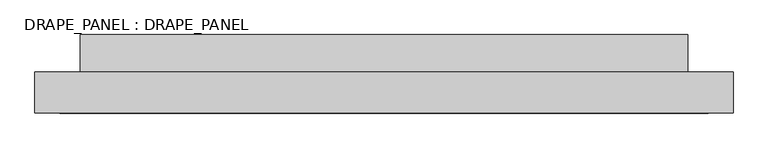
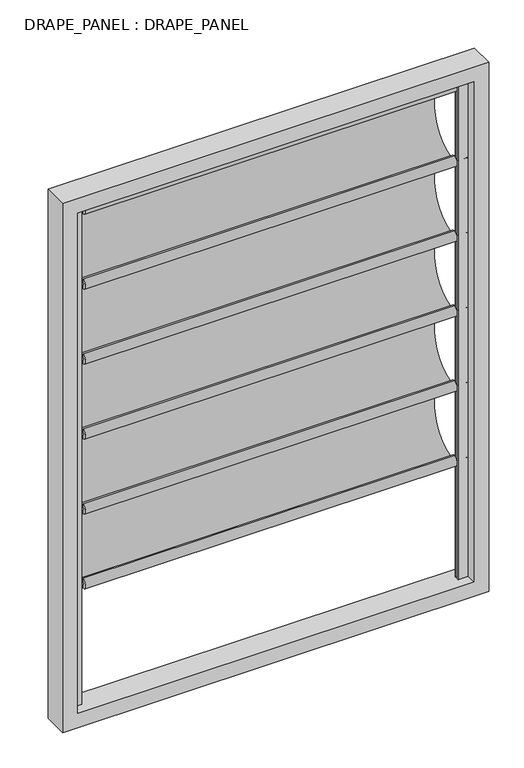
"""IFC4 building model written with IfcOpenShell, lengths in millimetres: plate geometry, DRAPE_PANEL : DRAPE_PANEL."""

import ifcopenshell
import ifcopenshell.guid

model = None  # the IFC model being written
_history = None  # IfcOwnerHistory: only IFC2X3 demands one
_inside = {}  # id of a spatial element -> (the spatial element, [elements in it])
_under = {}  # id of a project, library or spatial element -> (it, [spatial elements below it])
_declared = {}  # id of a project -> (the project, [libraries it declares])
_typed = {}  # id of a type object -> (the type object, [elements of that type])
_made_of = {}  # id of a material, layer set ... -> (it, [elements and type objects made of it])


def new_model(schema):
    """Start an empty IFC model of exactly this schema.

    Asked for "IFC4X3", IfcOpenShell would pick the latest addendum, in which some entities
    have other attributes; the version numbers below select the first issue.
    IFC2X3 requires an IfcOwnerHistory on every rooted entity: one is made here for all.
    """
    global model, _history
    if schema == "IFC4X3":
        model = ifcopenshell.file(schema_version=(4, 3, 0, 0))
    else:
        model = ifcopenshell.file(schema=schema)
    _inside.clear()
    _under.clear()
    _declared.clear()
    _typed.clear()
    _made_of.clear()
    _history = None
    if model.schema == "IFC2X3":
        org = make("IfcOrganization", Name="unknown")
        user = make(
            "IfcPersonAndOrganization",
            ThePerson=make("IfcPerson", FamilyName="unknown"),
            TheOrganization=org,
        )
        app = make(
            "IfcApplication",
            ApplicationDeveloper=org,
            Version="unknown",
            ApplicationFullName="unknown",
            ApplicationIdentifier="unknown",
        )
        _history = make(
            "IfcOwnerHistory",
            OwningUser=user,
            OwningApplication=app,
            ChangeAction="ADDED",
            CreationDate=0,
        )
    return model


def make(cls, **values):
    """One entity of the class cls with the attributes given. An attribute that is None is left unset."""
    return model.create_entity(
        cls, **{name: value for name, value in values.items() if value is not None}
    )


def rooted(cls, **values):
    """An entity with a GlobalId (a new one), such as an element, a storey or a relation."""
    return make(cls, GlobalId=ifcopenshell.guid.new(), OwnerHistory=_history, **values)


def si_unit(unit_type, name, prefix=None):
    """IfcSIUnit, for example si_unit("LENGTHUNIT", "METRE", prefix="MILLI")."""
    return make("IfcSIUnit", UnitType=unit_type, Prefix=prefix, Name=name)


def assignment(units):
    """IfcUnitAssignment: the units of a project."""
    return None if units is None else make("IfcUnitAssignment", Units=units)


def point(xyz):
    """IfcCartesianPoint."""
    return None if xyz is None else make("IfcCartesianPoint", Coordinates=xyz)


def direction(xyz):
    """IfcDirection."""
    return None if xyz is None else make("IfcDirection", DirectionRatios=xyz)


def frame(location, z_axis=None, x_axis=None):
    """IfcAxis2Placement3D, a coordinate frame: its origin and axes. An axis left out is left unset."""
    return make(
        "IfcAxis2Placement3D",
        Location=point(location),
        Axis=direction(z_axis),
        RefDirection=direction(x_axis),
    )


def origin():
    """The frame at (0, 0, 0) with its axes left unset."""
    return frame((0.0, 0.0, 0.0))


def place(relative_to, where):
    """IfcLocalPlacement: puts the frame where relative to a parent placement (None: the world)."""
    return make(
        "IfcLocalPlacement", PlacementRelTo=relative_to, RelativePlacement=where
    )


def context(
    kind, dimensions, precision=None, world=None, true_north=None, identifier=None
):
    """IfcGeometricRepresentationContext, for example the 3D "Model" context."""
    return make(
        "IfcGeometricRepresentationContext",
        ContextIdentifier=identifier,
        ContextType=kind,
        CoordinateSpaceDimension=dimensions,
        Precision=precision,
        WorldCoordinateSystem=world,
        TrueNorth=true_north,
    )


def project(units=None, contexts=None):
    """IfcProject with its units and contexts."""
    return rooted(
        "IfcProject",
        Name="project",
        RepresentationContexts=contexts,
        UnitsInContext=assignment(units),
    )


def spatial(cls, under=None, at=None, **own):
    """A site, building, storey or space (cls), placed at a placement, below another one or the project."""
    s = rooted(cls, ObjectPlacement=at, **own)
    if under is not None:
        _under.setdefault(under.id(), (under, []))[1].append(s)
    return s


def polyline(points):
    """IfcPolyline through the points."""
    return make("IfcPolyline", Points=[point(p) for p in points])


def circle_curve(where, radius):
    """IfcCircle in the frame where."""
    return make("IfcCircle", Position=where, Radius=radius)


def ellipse_curve(where, semi_axis1, semi_axis2):
    """IfcEllipse in the frame where."""
    return make(
        "IfcEllipse", Position=where, SemiAxis1=semi_axis1, SemiAxis2=semi_axis2
    )


def trimmed(basis, trim1, trim2, sense, master):
    """IfcTrimmedCurve: the piece of a basis curve between two trims."""
    return make(
        "IfcTrimmedCurve",
        BasisCurve=basis,
        Trim1=trim1,
        Trim2=trim2,
        SenseAgreement=sense,
        MasterRepresentation=master,
    )


def outline(outer, holes=None, kind="AREA"):
    """IfcArbitraryClosedProfileDef: a profile drawn as a closed curve; with holes, ...WithVoids."""
    if holes is None:
        return make("IfcArbitraryClosedProfileDef", ProfileType=kind, OuterCurve=outer)
    return make(
        "IfcArbitraryProfileDefWithVoids",
        ProfileType=kind,
        OuterCurve=outer,
        InnerCurves=holes,
    )


def extrude(swept, where, along, depth):
    """IfcExtrudedAreaSolid: the profile swept, set in the frame where, extruded along a direction by depth."""
    return make(
        "IfcExtrudedAreaSolid",
        SweptArea=swept,
        Position=where,
        ExtrudedDirection=direction(along),
        Depth=depth,
    )


def shape(context_of_items, identifier, shape_type, items):
    """IfcShapeRepresentation: the items that make up one representation, for example the "Body"."""
    return make(
        "IfcShapeRepresentation",
        ContextOfItems=context_of_items,
        RepresentationIdentifier=identifier,
        RepresentationType=shape_type,
        Items=items,
    )


def source(mapping_origin, context_of_items, identifier, shape_type, items):
    """IfcRepresentationMap: a shape defined once, which mapped items show again and again."""
    return make(
        "IfcRepresentationMap",
        MappingOrigin=mapping_origin,
        MappedRepresentation=shape(context_of_items, identifier, shape_type, items),
    )


def transform(
    local_origin,
    x_axis=None,
    y_axis=None,
    z_axis=None,
    scale=None,
    scale2=None,
    scale3=None,
    uniform=True,
):
    """IfcCartesianTransformationOperator3D, or its non-uniform kind. x_axis, y_axis, z_axis: its Axis1, 2, 3."""
    if uniform:
        return make(
            "IfcCartesianTransformationOperator3D",
            Axis1=direction(x_axis),
            Axis2=direction(y_axis),
            LocalOrigin=point(local_origin),
            Scale=scale,
            Axis3=direction(z_axis),
        )
    return make(
        "IfcCartesianTransformationOperator3DnonUniform",
        Axis1=direction(x_axis),
        Axis2=direction(y_axis),
        LocalOrigin=point(local_origin),
        Scale=scale,
        Axis3=direction(z_axis),
        Scale2=scale2,
        Scale3=scale3,
    )


def mapped(mapping_source, mapping_target):
    """IfcMappedItem: shows the shape of a source again, moved by a transform."""
    return make(
        "IfcMappedItem", MappingSource=mapping_source, MappingTarget=mapping_target
    )


def made_of(thing, what):
    """Note that an element or type object is made of a material, layer set ...; save() writes the relation."""
    if what is not None:
        _made_of.setdefault(what.id(), (what, []))[1].append(thing)
    return thing


def element(
    cls,
    number,
    at=None,
    inside=None,
    cuts=None,
    type_object=None,
    material=None,
    context=None,
    identifier="Body",
    shape_type=None,
    held_by="IfcProductDefinitionShape",
    body=None,
    shapes=None,
    **own,
):
    """One element of the class cls, such as IfcWall. Its Tag is "e" and its number.

    at: its placement. inside: the storey or other place that contains it. cuts: it is an
    opening in that element (IfcRelVoidsElement). A single representation is given by context,
    identifier, shape_type and body (its items); several are given by shapes. held_by: the class
    of the entity that holds the representations. save() writes the other relations.
    """
    e = rooted(cls, Tag="e%d" % number, ObjectPlacement=at, **own)
    if body is not None:
        shapes = [shape(context, identifier, shape_type, body)]
    if shapes is not None:
        e.Representation = make(held_by, Representations=shapes)
    if inside is not None:
        _inside.setdefault(inside.id(), (inside, []))[1].append(e)
    if cuts is not None:
        rooted(
            "IfcRelVoidsElement", RelatingBuildingElement=cuts, RelatedOpeningElement=e
        )
    if type_object is not None:
        _typed.setdefault(type_object.id(), (type_object, []))[1].append(e)
    return made_of(e, material)


def aggregate(whole, parts):
    """IfcRelAggregates: a whole, such as a stair, and the parts it consists of."""
    return rooted("IfcRelAggregates", RelatingObject=whole, RelatedObjects=parts)


def save(model, path):
    """Write the relations noted so far, then the file.

    IfcRelAggregates (storeys below a building ...), IfcRelContainedInSpatialStructure (elements
    in a storey), IfcRelDefinesByType, IfcRelAssociatesMaterial and IfcRelDeclares: one each for
    every whole, place, type object, material and project.
    """
    for whole, parts in _under.values():
        aggregate(whole, parts)
    for where, things in _inside.values():
        rooted(
            "IfcRelContainedInSpatialStructure",
            RelatedElements=things,
            RelatingStructure=where,
        )
    for kind, things in _typed.values():
        rooted("IfcRelDefinesByType", RelatedObjects=things, RelatingType=kind)
    for what, things in _made_of.values():
        rooted("IfcRelAssociatesMaterial", RelatedObjects=things, RelatingMaterial=what)
    for by, libraries in _declared.values():
        rooted("IfcRelDeclares", RelatingContext=by, RelatedDefinitions=libraries)
    model.write(path)


def plane_surface(at):
    """IfcPlane: the flat surface through the origin of the frame at, square to its z axis."""
    return make("IfcPlane", Position=at)


def cylinder_surface(at, radius):
    """IfcCylindricalSurface: all points at the distance radius from the z axis of the frame at."""
    return make("IfcCylindricalSurface", Position=at, Radius=radius)


def extruded_surface(curve, direction_of_extrusion, depth):
    """IfcSurfaceOfLinearExtrusion: the curve pushed along a direction by depth."""
    return make(
        "IfcSurfaceOfLinearExtrusion",
        SweptCurve=make("IfcArbitraryOpenProfileDef", ProfileType="CURVE", Curve=curve),
        ExtrudedDirection=direction(direction_of_extrusion),
        Depth=depth,
    )


def advanced_brep(points, edges, surfaces, faces):
    """IfcAdvancedBrep: a solid bounded by faces that lie on surfaces and meet in shared edges.

    An edge is (start, end): straight between two places in points (the first is 0);
    or (start, end, curve); or (start, end, curve, False) where it runs against its curve.
    A face is (place in surfaces, loops), or (place, loops, False) where it looks against
    its surface's normal. A loop lists edges by number (the first is 1), with a minus sign
    where the edge is run from its end to its start. The first loop is the outer one.
    """
    corners = [point(p) for p in points]
    vertices = [make("IfcVertexPoint", VertexGeometry=c) for c in corners]
    made = []
    for start, end, *more in edges:
        made.append(
            make(
                "IfcEdgeCurve",
                EdgeStart=vertices[start],
                EdgeEnd=vertices[end],
                EdgeGeometry=more[0] if more else make("IfcPolyline", Points=[corners[start], corners[end]]),
                SameSense=more[1] if len(more) > 1 else True,
            )
        )
    hull = []
    for where, loops, *sense in faces:
        bounds = []
        for j, loop in enumerate(loops):
            ring = [make("IfcOrientedEdge", EdgeElement=made[abs(k) - 1], Orientation=k > 0) for k in loop]
            bounds.append(
                make(
                    "IfcFaceOuterBound" if j == 0 else "IfcFaceBound",
                    Bound=make("IfcEdgeLoop", EdgeList=ring),
                    Orientation=True,
                )
            )
        hull.append(make("IfcAdvancedFace", Bounds=bounds, FaceSurface=surfaces[where], SameSense=sense[0] if sense else True))
    return make("IfcAdvancedBrep", Outer=make("IfcClosedShell", CfsFaces=hull))


def drape_panel_drape_panel_9400ea7e(model_context):
    return source(origin(), model_context, "Body", "SolidModel", [
        advanced_brep(
        [(-790.0, 0.0, 1191.5019792), (-790.0, 0.0, 1196.5019792), (-790.0, 0.0, 1186.5019792), (790.0, 0.0, 1186.5019792), (790.0, 0.0, 1196.5019792), (790.0, 0.0, 1191.5019792), (740.0, 0.0, 1186.5019792), (740.0, 0.0, 1196.5019792), (740.0, 0.0, 1171.5019792), (740.0, 0.0, 1211.5019792), (-740.0, 0.0, 1171.5019792), (-740.0, 0.0, 1211.5019792), (-740.0, 0.0, 1186.5019792), (-740.0, 0.0, 1196.5019792)],
        [
            (0, 1),
            (1, 2, circle_curve(frame((-790.0, 0.0, 1191.5019792), z_axis=(-1.0, 0.0, 0.0), x_axis=(0.0, 0.0, 1.0)), 5.0)),
            (2, 0),
            (2, 1, circle_curve(frame((-790.0, 0.0, 1191.5019792), z_axis=(-1.0, 0.0, 0.0), x_axis=(0.0, 0.0, 1.0)), 5.0)),
            (3, 4, circle_curve(frame((790.0, 0.0, 1191.5019792), z_axis=(1.0, 0.0, 0.0), x_axis=(0.0, 0.0, 1.0)), 5.0)),
            (4, 5),
            (5, 3),
            (4, 3, circle_curve(frame((790.0, 0.0, 1191.5019792), z_axis=(1.0, 0.0, 0.0), x_axis=(0.0, 0.0, 1.0)), 5.0)),
            (6, 7, circle_curve(frame((740.0, 0.0, 1191.5019792), z_axis=(1.0, 0.0, 0.0), x_axis=(0.0, 0.0, 1.0)), 5.0)),
            (7, 4),
            (3, 6),
            (7, 6, circle_curve(frame((740.0, 0.0, 1191.5019792), z_axis=(1.0, 0.0, 0.0), x_axis=(0.0, 0.0, 1.0)), 5.0)),
            (8, 9, circle_curve(frame((740.0, 0.0, 1191.5019792), z_axis=(1.0, 0.0, 0.0), x_axis=(0.0, 0.0, 1.0)), 20.0)),
            (9, 7),
            (6, 8),
            (9, 8, circle_curve(frame((740.0, 0.0, 1191.5019792), z_axis=(1.0, 0.0, 0.0), x_axis=(0.0, 0.0, 1.0)), 20.0)),
            (10, 11, circle_curve(frame((-740.0, 0.0, 1191.5019792), z_axis=(1.0, 0.0, 0.0), x_axis=(0.0, 0.0, 1.0)), 20.0)),
            (11, 9),
            (8, 10),
            (11, 10, circle_curve(frame((-740.0, 0.0, 1191.5019792), z_axis=(1.0, 0.0, 0.0), x_axis=(0.0, 0.0, 1.0)), 20.0)),
            (12, 13, circle_curve(frame((-740.0, 0.0, 1191.5019792), z_axis=(1.0, 0.0, 0.0), x_axis=(0.0, 0.0, 1.0)), 5.0)),
            (13, 11),
            (10, 12),
            (13, 12, circle_curve(frame((-740.0, 0.0, 1191.5019792), z_axis=(1.0, 0.0, 0.0), x_axis=(0.0, 0.0, 1.0)), 5.0)),
            (1, 13),
            (12, 2),
        ],
        [
            plane_surface(frame((-790.0, 0.0, 1191.5019792), z_axis=(-1.0, 0.0, 0.0), x_axis=(0.0, 0.0, 1.0))),
            plane_surface(frame((790.0, 0.0, 1191.5019792), z_axis=(1.0, 0.0, 0.0), x_axis=(0.0, 0.0, 1.0))),
            cylinder_surface(frame((6238.8752301, 0.0, 1191.5019792), z_axis=(-1.0, 0.0, 0.0), x_axis=(0.0, 0.0, 1.0)), 5.0),
            plane_surface(frame((740.0, 0.0, 1191.5019792), z_axis=(1.0, 0.0, 0.0), x_axis=(0.0, 0.0, 1.0))),
            cylinder_surface(frame((6238.8752301, 0.0, 1191.5019792), z_axis=(-1.0, 0.0, 0.0), x_axis=(0.0, 0.0, 1.0)), 20.0),
            plane_surface(frame((-740.0, 0.0, 1191.5019792), z_axis=(-1.0, 0.0, 0.0), x_axis=(0.0, 0.0, 1.0))),
        ],
        [
            (0, [[1, 2, 3]]),
            (0, [[-3, 4, -1]]),
            (1, [[5, 6, 7]]),
            (1, [[8, -7, -6]]),
            (2, [[9, 10, -5, 11]]),
            (2, [[12, -11, -8, -10]]),
            (3, [[13, 14, -9, 15]]),
            (3, [[16, -15, -12, -14]]),
            (4, [[17, 18, -13, 19]]),
            (4, [[20, -19, -16, -18]]),
            (5, [[21, 22, -17, 23]]),
            (5, [[24, -23, -20, -22]]),
            (2, [[-2, 25, -21, 26]]),
            (2, [[-4, -26, -24, -25]]),
        ],
    ),
        advanced_brep(
        [(740.0, 0.0, 1191.5019792), (740.0, 0.0, 1188.5019792), (740.0, 0.0, 878.7509896), (740.0, 0.0, 875.7509896), (-740.0, 0.0, 1191.5019792), (-740.0, 0.0, 875.7509896), (-740.0, 0.0, 878.7509896), (-740.0, 0.0, 1188.5019792)],
        [
            (0, 1),
            (1, 2, ellipse_curve(frame((740.0, 0.0, 1033.6264844), z_axis=(-1.0, 0.0, 0.0), x_axis=(0.0, 0.0, -1.0)), 154.8754948, 138.1345824)),
            (2, 3),
            (3, 0, ellipse_curve(frame((740.0, 0.0, 1033.6264844), z_axis=(1.0, 0.0, 0.0), x_axis=(0.0, 0.0, -1.0)), 157.8754948, 141.1345824)),
            (4, 5, ellipse_curve(frame((-740.0, 0.0, 1033.6264844), z_axis=(-1.0, 0.0, 0.0), x_axis=(0.0, 0.0, -1.0)), 157.8754948, 141.1345824)),
            (5, 6),
            (6, 7, ellipse_curve(frame((-740.0, 0.0, 1033.6264844), z_axis=(1.0, 0.0, 0.0), x_axis=(0.0, 0.0, -1.0)), 154.8754948, 138.1345824)),
            (7, 4),
            (0, 4),
            (7, 1),
            (6, 2),
            (5, 3),
        ],
        [
            plane_surface(frame((740.0, 0.0, 1191.5019792), z_axis=(1.0, 0.0, 0.0), x_axis=(0.0, -1.1340037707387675e-12, -1.0))),
            plane_surface(frame((-740.0, 0.0, 1191.5019792), z_axis=(-1.0, 0.0, 0.0), x_axis=(0.0, 1.1340037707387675e-12, 1.0))),
            plane_surface(frame((740.0, 0.0, 1191.5019792), z_axis=(0.0, -1.0, 1.1340037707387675e-12), x_axis=(-1.0, 0.0, 0.0))),
            extruded_surface(trimmed(ellipse_curve(frame((-2220.0, 0.0, 1033.6264844), z_axis=(-1.0, 0.0, 0.0), x_axis=(0.0, 0.0, -1.0)), 154.8754948, 138.1345824), [point((-2220.0, 0.0, 1188.5019792))], [point((-2220.0, 0.0, 878.7509896))], True, "CARTESIAN"), (1480.0, 0.0, 0.0), 1480.0),
            plane_surface(frame((740.0, 0.0, 878.7509896), z_axis=(0.0, -1.0, 0.0), x_axis=(-1.0, 0.0, 0.0))),
            extruded_surface(trimmed(ellipse_curve(frame((-2220.0, 0.0, 1033.6264844), z_axis=(1.0, 0.0, 0.0), x_axis=(0.0, 0.0, -1.0)), 157.8754948, 141.1345824), [point((-2220.0, 0.0, 875.7509896))], [point((-2220.0, 0.0, 1191.5019792))], True, "CARTESIAN"), (1480.0, 0.0, 0.0), 1480.0),
        ],
        [
            (0, [[1, 2, 3, 4]]),
            (1, [[5, 6, 7, 8]]),
            (2, [[-1, 9, -8, 10]]),
            (3, [[-2, -10, -7, 11]]),
            (4, [[-3, -11, -6, 12]]),
            (5, [[-4, -12, -5, -9]]),
        ],
    ),
        advanced_brep(
        [(-790.0, 0.0, 1507.2529688), (-790.0, 0.0, 1512.2529688), (-790.0, 0.0, 1502.2529688), (790.0, 0.0, 1502.2529688), (790.0, 0.0, 1512.2529688), (790.0, 0.0, 1507.2529688), (740.0, 0.0, 1502.2529688), (740.0, 0.0, 1512.2529688), (740.0, 0.0, 1487.2529688), (740.0, 0.0, 1527.2529688), (-740.0, 0.0, 1487.2529688), (-740.0, 0.0, 1527.2529688), (-740.0, 0.0, 1502.2529688), (-740.0, 0.0, 1512.2529688)],
        [
            (0, 1),
            (1, 2, circle_curve(frame((-790.0, 0.0, 1507.2529688), z_axis=(-1.0, 0.0, 0.0), x_axis=(0.0, 0.0, 1.0)), 5.0)),
            (2, 0),
            (2, 1, circle_curve(frame((-790.0, 0.0, 1507.2529688), z_axis=(-1.0, 0.0, 0.0), x_axis=(0.0, 0.0, 1.0)), 5.0)),
            (3, 4, circle_curve(frame((790.0, 0.0, 1507.2529688), z_axis=(1.0, 0.0, 0.0), x_axis=(0.0, 0.0, 1.0)), 5.0)),
            (4, 5),
            (5, 3),
            (4, 3, circle_curve(frame((790.0, 0.0, 1507.2529688), z_axis=(1.0, 0.0, 0.0), x_axis=(0.0, 0.0, 1.0)), 5.0)),
            (6, 7, circle_curve(frame((740.0, 0.0, 1507.2529688), z_axis=(1.0, 0.0, 0.0), x_axis=(0.0, 0.0, 1.0)), 5.0)),
            (7, 4),
            (3, 6),
            (7, 6, circle_curve(frame((740.0, 0.0, 1507.2529688), z_axis=(1.0, 0.0, 0.0), x_axis=(0.0, 0.0, 1.0)), 5.0)),
            (8, 9, circle_curve(frame((740.0, 0.0, 1507.2529688), z_axis=(1.0, 0.0, 0.0), x_axis=(0.0, 0.0, 1.0)), 20.0)),
            (9, 7),
            (6, 8),
            (9, 8, circle_curve(frame((740.0, 0.0, 1507.2529688), z_axis=(1.0, 0.0, 0.0), x_axis=(0.0, 0.0, 1.0)), 20.0)),
            (10, 11, circle_curve(frame((-740.0, 0.0, 1507.2529688), z_axis=(1.0, 0.0, 0.0), x_axis=(0.0, 0.0, 1.0)), 20.0)),
            (11, 9),
            (8, 10),
            (11, 10, circle_curve(frame((-740.0, 0.0, 1507.2529688), z_axis=(1.0, 0.0, 0.0), x_axis=(0.0, 0.0, 1.0)), 20.0)),
            (12, 13, circle_curve(frame((-740.0, 0.0, 1507.2529688), z_axis=(1.0, 0.0, 0.0), x_axis=(0.0, 0.0, 1.0)), 5.0)),
            (13, 11),
            (10, 12),
            (13, 12, circle_curve(frame((-740.0, 0.0, 1507.2529688), z_axis=(1.0, 0.0, 0.0), x_axis=(0.0, 0.0, 1.0)), 5.0)),
            (1, 13),
            (12, 2),
        ],
        [
            plane_surface(frame((-790.0, 0.0, 1507.2529688), z_axis=(-1.0, 0.0, 0.0), x_axis=(0.0, 0.0, 1.0))),
            plane_surface(frame((790.0, 0.0, 1507.2529688), z_axis=(1.0, 0.0, 0.0), x_axis=(0.0, 0.0, 1.0))),
            cylinder_surface(frame((6238.8752301, 0.0, 1507.2529688), z_axis=(-1.0, 0.0, 0.0), x_axis=(0.0, 0.0, 1.0)), 5.0),
            plane_surface(frame((740.0, 0.0, 1507.2529688), z_axis=(1.0, 0.0, 0.0), x_axis=(0.0, 0.0, 1.0))),
            cylinder_surface(frame((6238.8752301, 0.0, 1507.2529688), z_axis=(-1.0, 0.0, 0.0), x_axis=(0.0, 0.0, 1.0)), 20.0),
            plane_surface(frame((-740.0, 0.0, 1507.2529688), z_axis=(-1.0, 0.0, 0.0), x_axis=(0.0, 0.0, 1.0))),
        ],
        [
            (0, [[1, 2, 3]]),
            (0, [[-3, 4, -1]]),
            (1, [[5, 6, 7]]),
            (1, [[8, -7, -6]]),
            (2, [[9, 10, -5, 11]]),
            (2, [[12, -11, -8, -10]]),
            (3, [[13, 14, -9, 15]]),
            (3, [[16, -15, -12, -14]]),
            (4, [[17, 18, -13, 19]]),
            (4, [[20, -19, -16, -18]]),
            (5, [[21, 22, -17, 23]]),
            (5, [[24, -23, -20, -22]]),
            (2, [[-2, 25, -21, 26]]),
            (2, [[-4, -26, -24, -25]]),
        ],
    ),
        advanced_brep(
        [(740.0, 0.0, 1507.2529688), (740.0, 0.0, 1504.2529688), (740.0, 0.0, 1194.5019792), (740.0, 0.0, 1191.5019792), (-740.0, 0.0, 1507.2529688), (-740.0, 0.0, 1191.5019792), (-740.0, 0.0, 1194.5019792), (-740.0, 0.0, 1504.2529688)],
        [
            (0, 1),
            (1, 2, ellipse_curve(frame((740.0, 0.0, 1349.377474), z_axis=(-1.0, 0.0, 0.0), x_axis=(0.0, 0.0, -1.0)), 154.8754948, 138.1345824)),
            (2, 3),
            (3, 0, ellipse_curve(frame((740.0, 0.0, 1349.377474), z_axis=(1.0, 0.0, 0.0), x_axis=(0.0, 0.0, -1.0)), 157.8754948, 141.1345824)),
            (4, 5, ellipse_curve(frame((-740.0, 0.0, 1349.377474), z_axis=(-1.0, 0.0, 0.0), x_axis=(0.0, 0.0, -1.0)), 157.8754948, 141.1345824)),
            (5, 6),
            (6, 7, ellipse_curve(frame((-740.0, 0.0, 1349.377474), z_axis=(1.0, 0.0, 0.0), x_axis=(0.0, 0.0, -1.0)), 154.8754948, 138.1345824)),
            (7, 4),
            (0, 4),
            (7, 1),
            (6, 2),
            (5, 3),
        ],
        [
            plane_surface(frame((740.0, 0.0, 1507.2529688), z_axis=(1.0, 0.0, 0.0), x_axis=(0.0, -1.1340037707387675e-12, -1.0))),
            plane_surface(frame((-740.0, 0.0, 1507.2529688), z_axis=(-1.0, 0.0, 0.0), x_axis=(0.0, 1.1340037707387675e-12, 1.0))),
            plane_surface(frame((740.0, 0.0, 1507.2529688), z_axis=(0.0, -1.0, 1.1340037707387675e-12), x_axis=(-1.0, 0.0, 0.0))),
            extruded_surface(trimmed(ellipse_curve(frame((-2220.0, 0.0, 1349.377474), z_axis=(-1.0, 0.0, 0.0), x_axis=(0.0, 0.0, -1.0)), 154.8754948, 138.1345824), [point((-2220.0, 0.0, 1504.2529688))], [point((-2220.0, 0.0, 1194.5019792))], True, "CARTESIAN"), (1480.0, 0.0, 0.0), 1480.0),
            plane_surface(frame((740.0, 0.0, 1194.5019792), z_axis=(0.0, -1.0, 0.0), x_axis=(-1.0, 0.0, 0.0))),
            extruded_surface(trimmed(ellipse_curve(frame((-2220.0, 0.0, 1349.377474), z_axis=(1.0, 0.0, 0.0), x_axis=(0.0, 0.0, -1.0)), 157.8754948, 141.1345824), [point((-2220.0, 0.0, 1191.5019792))], [point((-2220.0, 0.0, 1507.2529688))], True, "CARTESIAN"), (1480.0, 0.0, 0.0), 1480.0),
        ],
        [
            (0, [[1, 2, 3, 4]]),
            (1, [[5, 6, 7, 8]]),
            (2, [[-1, 9, -8, 10]]),
            (3, [[-2, -10, -7, 11]]),
            (4, [[-3, -11, -6, 12]]),
            (5, [[-4, -12, -5, -9]]),
        ],
    ),
        advanced_brep(
        [(-790.0, 0.0, 1823.0039583), (-790.0, 0.0, 1828.0039583), (-790.0, 0.0, 1818.0039583), (790.0, 0.0, 1818.0039583), (790.0, 0.0, 1828.0039583), (790.0, 0.0, 1823.0039583), (740.0, 0.0, 1818.0039583), (740.0, 0.0, 1828.0039583), (740.0, 0.0, 1803.0039583), (740.0, 0.0, 1843.0039583), (-740.0, 0.0, 1803.0039583), (-740.0, 0.0, 1843.0039583), (-740.0, 0.0, 1818.0039583), (-740.0, 0.0, 1828.0039583)],
        [
            (0, 1),
            (1, 2, circle_curve(frame((-790.0, 0.0, 1823.0039583), z_axis=(-1.0, 0.0, 0.0), x_axis=(0.0, 0.0, 1.0)), 5.0)),
            (2, 0),
            (2, 1, circle_curve(frame((-790.0, 0.0, 1823.0039583), z_axis=(-1.0, 0.0, 0.0), x_axis=(0.0, 0.0, 1.0)), 5.0)),
            (3, 4, circle_curve(frame((790.0, 0.0, 1823.0039583), z_axis=(1.0, 0.0, 0.0), x_axis=(0.0, 0.0, 1.0)), 5.0)),
            (4, 5),
            (5, 3),
            (4, 3, circle_curve(frame((790.0, 0.0, 1823.0039583), z_axis=(1.0, 0.0, 0.0), x_axis=(0.0, 0.0, 1.0)), 5.0)),
            (6, 7, circle_curve(frame((740.0, 0.0, 1823.0039583), z_axis=(1.0, 0.0, 0.0), x_axis=(0.0, 0.0, 1.0)), 5.0)),
            (7, 4),
            (3, 6),
            (7, 6, circle_curve(frame((740.0, 0.0, 1823.0039583), z_axis=(1.0, 0.0, 0.0), x_axis=(0.0, 0.0, 1.0)), 5.0)),
            (8, 9, circle_curve(frame((740.0, 0.0, 1823.0039583), z_axis=(1.0, 0.0, 0.0), x_axis=(0.0, 0.0, 1.0)), 20.0)),
            (9, 7),
            (6, 8),
            (9, 8, circle_curve(frame((740.0, 0.0, 1823.0039583), z_axis=(1.0, 0.0, 0.0), x_axis=(0.0, 0.0, 1.0)), 20.0)),
            (10, 11, circle_curve(frame((-740.0, 0.0, 1823.0039583), z_axis=(1.0, 0.0, 0.0), x_axis=(0.0, 0.0, 1.0)), 20.0)),
            (11, 9),
            (8, 10),
            (11, 10, circle_curve(frame((-740.0, 0.0, 1823.0039583), z_axis=(1.0, 0.0, 0.0), x_axis=(0.0, 0.0, 1.0)), 20.0)),
            (12, 13, circle_curve(frame((-740.0, 0.0, 1823.0039583), z_axis=(1.0, 0.0, 0.0), x_axis=(0.0, 0.0, 1.0)), 5.0)),
            (13, 11),
            (10, 12),
            (13, 12, circle_curve(frame((-740.0, 0.0, 1823.0039583), z_axis=(1.0, 0.0, 0.0), x_axis=(0.0, 0.0, 1.0)), 5.0)),
            (1, 13),
            (12, 2),
        ],
        [
            plane_surface(frame((-790.0, 0.0, 1823.0039583), z_axis=(-1.0, 0.0, 0.0), x_axis=(0.0, 0.0, 1.0))),
            plane_surface(frame((790.0, 0.0, 1823.0039583), z_axis=(1.0, 0.0, 0.0), x_axis=(0.0, 0.0, 1.0))),
            cylinder_surface(frame((6238.8752301, 0.0, 1823.0039583), z_axis=(-1.0, 0.0, 0.0), x_axis=(0.0, 0.0, 1.0)), 5.0),
            plane_surface(frame((740.0, 0.0, 1823.0039583), z_axis=(1.0, 0.0, 0.0), x_axis=(0.0, 0.0, 1.0))),
            cylinder_surface(frame((6238.8752301, 0.0, 1823.0039583), z_axis=(-1.0, 0.0, 0.0), x_axis=(0.0, 0.0, 1.0)), 20.0),
            plane_surface(frame((-740.0, 0.0, 1823.0039583), z_axis=(-1.0, 0.0, 0.0), x_axis=(0.0, 0.0, 1.0))),
        ],
        [
            (0, [[1, 2, 3]]),
            (0, [[-3, 4, -1]]),
            (1, [[5, 6, 7]]),
            (1, [[8, -7, -6]]),
            (2, [[9, 10, -5, 11]]),
            (2, [[12, -11, -8, -10]]),
            (3, [[13, 14, -9, 15]]),
            (3, [[16, -15, -12, -14]]),
            (4, [[17, 18, -13, 19]]),
            (4, [[20, -19, -16, -18]]),
            (5, [[21, 22, -17, 23]]),
            (5, [[24, -23, -20, -22]]),
            (2, [[-2, 25, -21, 26]]),
            (2, [[-4, -26, -24, -25]]),
        ],
    ),
        advanced_brep(
        [(740.0, 0.0, 1823.0039583), (740.0, 0.0, 1820.0039583), (740.0, 0.0, 1510.2529688), (740.0, 0.0, 1507.2529688), (-740.0, 0.0, 1823.0039583), (-740.0, 0.0, 1507.2529688), (-740.0, 0.0, 1510.2529687), (-740.0, 0.0, 1820.0039583)],
        [
            (0, 1),
            (1, 2, ellipse_curve(frame((740.0, 0.0, 1665.1284635), z_axis=(-1.0, 0.0, 0.0), x_axis=(0.0, 0.0, -1.0)), 154.8754948, 138.1345824)),
            (2, 3),
            (3, 0, ellipse_curve(frame((740.0, 0.0, 1665.1284635), z_axis=(1.0, 0.0, 0.0), x_axis=(0.0, 0.0, -1.0)), 157.8754948, 141.1345824)),
            (4, 5, ellipse_curve(frame((-740.0, 0.0, 1665.1284635), z_axis=(-1.0, 0.0, 0.0), x_axis=(0.0, 0.0, -1.0)), 157.8754948, 141.1345824)),
            (5, 6),
            (6, 7, ellipse_curve(frame((-740.0, 0.0, 1665.1284635), z_axis=(1.0, 0.0, 0.0), x_axis=(0.0, 0.0, -1.0)), 154.8754948, 138.1345824)),
            (7, 4),
            (0, 4),
            (7, 1),
            (6, 2),
            (5, 3),
        ],
        [
            plane_surface(frame((740.0, 0.0, 1823.0039583), z_axis=(1.0, 0.0, 0.0), x_axis=(0.0, -1.1340037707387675e-12, -1.0))),
            plane_surface(frame((-740.0, 0.0, 1823.0039583), z_axis=(-1.0, 0.0, 0.0), x_axis=(0.0, 1.1340037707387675e-12, 1.0))),
            plane_surface(frame((740.0, 0.0, 1823.0039583), z_axis=(0.0, -1.0, 1.1340037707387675e-12), x_axis=(-1.0, 0.0, 0.0))),
            extruded_surface(trimmed(ellipse_curve(frame((-2220.0, 0.0, 1665.1284635), z_axis=(-1.0, 0.0, 0.0), x_axis=(0.0, 0.0, -1.0)), 154.8754948, 138.1345824), [point((-2220.0, 0.0, 1820.0039583))], [point((-2220.0, 0.0, 1510.2529687))], True, "CARTESIAN"), (1480.0, 0.0, 0.0), 1480.0),
            plane_surface(frame((740.0, 0.0, 1510.2529688), z_axis=(0.0, -1.0, 0.0), x_axis=(-1.0, 0.0, 0.0))),
            extruded_surface(trimmed(ellipse_curve(frame((-2220.0, 0.0, 1665.1284635), z_axis=(1.0, 0.0, 0.0), x_axis=(0.0, 0.0, -1.0)), 157.8754948, 141.1345824), [point((-2220.0, 0.0, 1507.2529688))], [point((-2220.0, 0.0, 1823.0039583))], True, "CARTESIAN"), (1480.0, 0.0, 0.0), 1480.0),
        ],
        [
            (0, [[1, 2, 3, 4]]),
            (1, [[5, 6, 7, 8]]),
            (2, [[-1, 9, -8, 10]]),
            (3, [[-2, -10, -7, 11]]),
            (4, [[-3, -11, -6, 12]]),
            (5, [[-4, -12, -5, -9]]),
        ],
    ),
        advanced_brep(
        [(-790.0, 0.0, 875.7509896), (-790.0, 0.0, 880.7509896), (-790.0, 0.0, 870.7509896), (790.0, 0.0, 870.7509896), (790.0, 0.0, 880.7509896), (790.0, 0.0, 875.7509896), (740.0, 0.0, 870.7509896), (740.0, 0.0, 880.7509896), (740.0, 0.0, 855.7509896), (740.0, 0.0, 895.7509896), (-740.0, 0.0, 855.7509896), (-740.0, 0.0, 895.7509896), (-740.0, 0.0, 870.7509896), (-740.0, 0.0, 880.7509896)],
        [
            (0, 1),
            (1, 2, circle_curve(frame((-790.0, 0.0, 875.7509896), z_axis=(-1.0, 0.0, 0.0), x_axis=(0.0, 0.0, 1.0)), 5.0)),
            (2, 0),
            (2, 1, circle_curve(frame((-790.0, 0.0, 875.7509896), z_axis=(-1.0, 0.0, 0.0), x_axis=(0.0, 0.0, 1.0)), 5.0)),
            (3, 4, circle_curve(frame((790.0, 0.0, 875.7509896), z_axis=(1.0, 0.0, 0.0), x_axis=(0.0, 0.0, 1.0)), 5.0)),
            (4, 5),
            (5, 3),
            (4, 3, circle_curve(frame((790.0, 0.0, 875.7509896), z_axis=(1.0, 0.0, 0.0), x_axis=(0.0, 0.0, 1.0)), 5.0)),
            (6, 7, circle_curve(frame((740.0, 0.0, 875.7509896), z_axis=(1.0, 0.0, 0.0), x_axis=(0.0, 0.0, 1.0)), 5.0)),
            (7, 4),
            (3, 6),
            (7, 6, circle_curve(frame((740.0, 0.0, 875.7509896), z_axis=(1.0, 0.0, 0.0), x_axis=(0.0, 0.0, 1.0)), 5.0)),
            (8, 9, circle_curve(frame((740.0, 0.0, 875.7509896), z_axis=(1.0, 0.0, 0.0), x_axis=(0.0, 0.0, 1.0)), 20.0)),
            (9, 7),
            (6, 8),
            (9, 8, circle_curve(frame((740.0, 0.0, 875.7509896), z_axis=(1.0, 0.0, 0.0), x_axis=(0.0, 0.0, 1.0)), 20.0)),
            (10, 11, circle_curve(frame((-740.0, 0.0, 875.7509896), z_axis=(1.0, 0.0, 0.0), x_axis=(0.0, 0.0, 1.0)), 20.0)),
            (11, 9),
            (8, 10),
            (11, 10, circle_curve(frame((-740.0, 0.0, 875.7509896), z_axis=(1.0, 0.0, 0.0), x_axis=(0.0, 0.0, 1.0)), 20.0)),
            (12, 13, circle_curve(frame((-740.0, 0.0, 875.7509896), z_axis=(1.0, 0.0, 0.0), x_axis=(0.0, 0.0, 1.0)), 5.0)),
            (13, 11),
            (10, 12),
            (13, 12, circle_curve(frame((-740.0, 0.0, 875.7509896), z_axis=(1.0, 0.0, 0.0), x_axis=(0.0, 0.0, 1.0)), 5.0)),
            (1, 13),
            (12, 2),
        ],
        [
            plane_surface(frame((-790.0, 0.0, 875.7509896), z_axis=(-1.0, 0.0, 0.0), x_axis=(0.0, 0.0, 1.0))),
            plane_surface(frame((790.0, 0.0, 875.7509896), z_axis=(1.0, 0.0, 0.0), x_axis=(0.0, 0.0, 1.0))),
            cylinder_surface(frame((6238.8752301, 0.0, 875.7509896), z_axis=(-1.0, 0.0, 0.0), x_axis=(0.0, 0.0, 1.0)), 5.0),
            plane_surface(frame((740.0, 0.0, 875.7509896), z_axis=(1.0, 0.0, 0.0), x_axis=(0.0, 0.0, 1.0))),
            cylinder_surface(frame((6238.8752301, 0.0, 875.7509896), z_axis=(-1.0, 0.0, 0.0), x_axis=(0.0, 0.0, 1.0)), 20.0),
            plane_surface(frame((-740.0, 0.0, 875.7509896), z_axis=(-1.0, 0.0, 0.0), x_axis=(0.0, 0.0, 1.0))),
        ],
        [
            (0, [[1, 2, 3]]),
            (0, [[-3, 4, -1]]),
            (1, [[5, 6, 7]]),
            (1, [[8, -7, -6]]),
            (2, [[9, 10, -5, 11]]),
            (2, [[12, -11, -8, -10]]),
            (3, [[13, 14, -9, 15]]),
            (3, [[16, -15, -12, -14]]),
            (4, [[17, 18, -13, 19]]),
            (4, [[20, -19, -16, -18]]),
            (5, [[21, 22, -17, 23]]),
            (5, [[24, -23, -20, -22]]),
            (2, [[-2, 25, -21, 26]]),
            (2, [[-4, -26, -24, -25]]),
        ],
    ),
        advanced_brep(
        [(740.0, 0.0, 875.7509896), (740.0, 0.0, 872.7509896), (740.0, 0.0, 563.0), (740.0, 0.0, 560.0), (-740.0, 0.0, 875.7509896), (-740.0, 0.0, 560.0), (-740.0, 0.0, 563.0), (-740.0, 0.0, 872.7509896)],
        [
            (0, 1),
            (1, 2, ellipse_curve(frame((740.0, 0.0, 717.8754948), z_axis=(-1.0, 0.0, 0.0), x_axis=(0.0, 0.0, -1.0)), 154.8754948, 138.1345824)),
            (2, 3),
            (3, 0, ellipse_curve(frame((740.0, 0.0, 717.8754948), z_axis=(1.0, 0.0, 0.0), x_axis=(0.0, 0.0, -1.0)), 157.8754948, 141.1345824)),
            (4, 5, ellipse_curve(frame((-740.0, 0.0, 717.8754948), z_axis=(-1.0, 0.0, 0.0), x_axis=(0.0, 0.0, -1.0)), 157.8754948, 141.1345824)),
            (5, 6),
            (6, 7, ellipse_curve(frame((-740.0, 0.0, 717.8754948), z_axis=(1.0, 0.0, 0.0), x_axis=(0.0, 0.0, -1.0)), 154.8754948, 138.1345824)),
            (7, 4),
            (0, 4),
            (7, 1),
            (6, 2),
            (5, 3),
        ],
        [
            plane_surface(frame((740.0, 0.0, 875.7509896), z_axis=(1.0, 0.0, 0.0), x_axis=(0.0, -1.1340037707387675e-12, -1.0))),
            plane_surface(frame((-740.0, 0.0, 875.7509896), z_axis=(-1.0, 0.0, 0.0), x_axis=(0.0, 1.1340037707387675e-12, 1.0))),
            plane_surface(frame((740.0, 0.0, 875.7509896), z_axis=(0.0, -1.0, 1.1340037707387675e-12), x_axis=(-1.0, 0.0, 0.0))),
            extruded_surface(trimmed(ellipse_curve(frame((-2220.0, 0.0, 717.8754948), z_axis=(-1.0, 0.0, 0.0), x_axis=(0.0, 0.0, -1.0)), 154.8754948, 138.1345824), [point((-2220.0, 0.0, 872.7509896))], [point((-2220.0, 0.0, 563.0))], True, "CARTESIAN"), (1480.0, 0.0, 0.0), 1480.0),
            plane_surface(frame((740.0, 0.0, 563.0), z_axis=(0.0, -1.0, 0.0), x_axis=(-1.0, 0.0, 0.0))),
            extruded_surface(trimmed(ellipse_curve(frame((-2220.0, 0.0, 717.8754948), z_axis=(1.0, 0.0, 0.0), x_axis=(0.0, 0.0, -1.0)), 157.8754948, 141.1345824), [point((-2220.0, 0.0, 560.0))], [point((-2220.0, 0.0, 875.7509896))], True, "CARTESIAN"), (1480.0, 0.0, 0.0), 1480.0),
        ],
        [
            (0, [[1, 2, 3, 4]]),
            (1, [[5, 6, 7, 8]]),
            (2, [[-1, 9, -8, 10]]),
            (3, [[-2, -10, -7, 11]]),
            (4, [[-3, -11, -6, 12]]),
            (5, [[-4, -12, -5, -9]]),
        ],
    ),
        advanced_brep(
        [(-790.0, 0.0, 2138.7549479), (-790.0, 0.0, 2143.7549479), (-790.0, 0.0, 2133.7549479), (790.0, 0.0, 2133.7549479), (790.0, 0.0, 2143.7549479), (790.0, 0.0, 2138.7549479), (740.0, 0.0, 2133.7549479), (740.0, 0.0, 2143.7549479), (740.0, 0.0, 2118.7549479), (740.0, 0.0, 2158.7549479), (-740.0, 0.0, 2118.7549479), (-740.0, 0.0, 2158.7549479), (-740.0, 0.0, 2133.7549479), (-740.0, 0.0, 2143.7549479)],
        [
            (0, 1),
            (1, 2, circle_curve(frame((-790.0, 0.0, 2138.7549479), z_axis=(-1.0, 0.0, 0.0), x_axis=(0.0, 0.0, 1.0)), 5.0)),
            (2, 0),
            (2, 1, circle_curve(frame((-790.0, 0.0, 2138.7549479), z_axis=(-1.0, 0.0, 0.0), x_axis=(0.0, 0.0, 1.0)), 5.0)),
            (3, 4, circle_curve(frame((790.0, 0.0, 2138.7549479), z_axis=(1.0, 0.0, 0.0), x_axis=(0.0, 0.0, 1.0)), 5.0)),
            (4, 5),
            (5, 3),
            (4, 3, circle_curve(frame((790.0, 0.0, 2138.7549479), z_axis=(1.0, 0.0, 0.0), x_axis=(0.0, 0.0, 1.0)), 5.0)),
            (6, 7, circle_curve(frame((740.0, 0.0, 2138.7549479), z_axis=(1.0, 0.0, 0.0), x_axis=(0.0, 0.0, 1.0)), 5.0)),
            (7, 4),
            (3, 6),
            (7, 6, circle_curve(frame((740.0, 0.0, 2138.7549479), z_axis=(1.0, 0.0, 0.0), x_axis=(0.0, 0.0, 1.0)), 5.0)),
            (8, 9, circle_curve(frame((740.0, 0.0, 2138.7549479), z_axis=(1.0, 0.0, 0.0), x_axis=(0.0, 0.0, 1.0)), 20.0)),
            (9, 7),
            (6, 8),
            (9, 8, circle_curve(frame((740.0, 0.0, 2138.7549479), z_axis=(1.0, 0.0, 0.0), x_axis=(0.0, 0.0, 1.0)), 20.0)),
            (10, 11, circle_curve(frame((-740.0, 0.0, 2138.7549479), z_axis=(1.0, 0.0, 0.0), x_axis=(0.0, 0.0, 1.0)), 20.0)),
            (11, 9),
            (8, 10),
            (11, 10, circle_curve(frame((-740.0, 0.0, 2138.7549479), z_axis=(1.0, 0.0, 0.0), x_axis=(0.0, 0.0, 1.0)), 20.0)),
            (12, 13, circle_curve(frame((-740.0, 0.0, 2138.7549479), z_axis=(1.0, 0.0, 0.0), x_axis=(0.0, 0.0, 1.0)), 5.0)),
            (13, 11),
            (10, 12),
            (13, 12, circle_curve(frame((-740.0, 0.0, 2138.7549479), z_axis=(1.0, 0.0, 0.0), x_axis=(0.0, 0.0, 1.0)), 5.0)),
            (1, 13),
            (12, 2),
        ],
        [
            plane_surface(frame((-790.0, 0.0, 2138.7549479), z_axis=(-1.0, 0.0, 0.0), x_axis=(0.0, 0.0, 1.0))),
            plane_surface(frame((790.0, 0.0, 2138.7549479), z_axis=(1.0, 0.0, 0.0), x_axis=(0.0, 0.0, 1.0))),
            cylinder_surface(frame((6238.8752301, 0.0, 2138.7549479), z_axis=(-1.0, 0.0, 0.0), x_axis=(0.0, 0.0, 1.0)), 5.0),
            plane_surface(frame((740.0, 0.0, 2138.7549479), z_axis=(1.0, 0.0, 0.0), x_axis=(0.0, 0.0, 1.0))),
            cylinder_surface(frame((6238.8752301, 0.0, 2138.7549479), z_axis=(-1.0, 0.0, 0.0), x_axis=(0.0, 0.0, 1.0)), 20.0),
            plane_surface(frame((-740.0, 0.0, 2138.7549479), z_axis=(-1.0, 0.0, 0.0), x_axis=(0.0, 0.0, 1.0))),
        ],
        [
            (0, [[1, 2, 3]]),
            (0, [[-3, 4, -1]]),
            (1, [[5, 6, 7]]),
            (1, [[8, -7, -6]]),
            (2, [[9, 10, -5, 11]]),
            (2, [[12, -11, -8, -10]]),
            (3, [[13, 14, -9, 15]]),
            (3, [[16, -15, -12, -14]]),
            (4, [[17, 18, -13, 19]]),
            (4, [[20, -19, -16, -18]]),
            (5, [[21, 22, -17, 23]]),
            (5, [[24, -23, -20, -22]]),
            (2, [[-2, 25, -21, 26]]),
            (2, [[-4, -26, -24, -25]]),
        ],
    ),
        advanced_brep(
        [(740.0, 0.0, 2138.7549479), (740.0, 0.0, 2135.7549479), (740.0, 0.0, 1826.0039583), (740.0, 0.0, 1823.0039583), (-740.0, 0.0, 2138.7549479), (-740.0, 0.0, 1823.0039583), (-740.0, 0.0, 1826.0039583), (-740.0, 0.0, 2135.7549479)],
        [
            (0, 1),
            (1, 2, ellipse_curve(frame((740.0, 0.0, 1980.8794531), z_axis=(-1.0, 0.0, 0.0), x_axis=(0.0, 0.0, -1.0)), 154.8754948, 138.1345824)),
            (2, 3),
            (3, 0, ellipse_curve(frame((740.0, 0.0, 1980.8794531), z_axis=(1.0, 0.0, 0.0), x_axis=(0.0, 0.0, -1.0)), 157.8754948, 141.1345824)),
            (4, 5, ellipse_curve(frame((-740.0, 0.0, 1980.8794531), z_axis=(-1.0, 0.0, 0.0), x_axis=(0.0, 0.0, -1.0)), 157.8754948, 141.1345824)),
            (5, 6),
            (6, 7, ellipse_curve(frame((-740.0, 0.0, 1980.8794531), z_axis=(1.0, 0.0, 0.0), x_axis=(0.0, 0.0, -1.0)), 154.8754948, 138.1345824)),
            (7, 4),
            (0, 4),
            (7, 1),
            (6, 2),
            (5, 3),
        ],
        [
            plane_surface(frame((740.0, 0.0, 2138.7549479), z_axis=(1.0, 0.0, 0.0), x_axis=(0.0, -1.1340037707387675e-12, -1.0))),
            plane_surface(frame((-740.0, 0.0, 2138.7549479), z_axis=(-1.0, 0.0, 0.0), x_axis=(0.0, 1.1340037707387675e-12, 1.0))),
            plane_surface(frame((740.0, 0.0, 2138.7549479), z_axis=(0.0, -1.0, 1.1340037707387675e-12), x_axis=(-1.0, 0.0, 0.0))),
            extruded_surface(trimmed(ellipse_curve(frame((-2220.0, 0.0, 1980.8794531), z_axis=(-1.0, 0.0, 0.0), x_axis=(0.0, 0.0, -1.0)), 154.8754948, 138.1345824), [point((-2220.0, 0.0, 2135.7549479))], [point((-2220.0, 0.0, 1826.0039583))], True, "CARTESIAN"), (1480.0, 0.0, 0.0), 1480.0),
            plane_surface(frame((740.0, 0.0, 1826.0039583), z_axis=(0.0, -1.0, 0.0), x_axis=(-1.0, 0.0, 0.0))),
            extruded_surface(trimmed(ellipse_curve(frame((-2220.0, 0.0, 1980.8794531), z_axis=(1.0, 0.0, 0.0), x_axis=(0.0, 0.0, -1.0)), 157.8754948, 141.1345824), [point((-2220.0, 0.0, 1823.0039583))], [point((-2220.0, 0.0, 2138.7549479))], True, "CARTESIAN"), (1480.0, 0.0, 0.0), 1480.0),
        ],
        [
            (0, [[1, 2, 3, 4]]),
            (1, [[5, 6, 7, 8]]),
            (2, [[-1, 9, -8, 10]]),
            (3, [[-2, -10, -7, 11]]),
            (4, [[-3, -11, -6, 12]]),
            (5, [[-4, -12, -5, -9]]),
        ],
    ),
        extrude(outline(polyline([(750.0, 5.0), (750.0, 10.0), (790.0, 10.0), (790.0, -10.0), (750.0, -10.0), (750.0, -5.0), (785.0, -5.0), (785.0, 5.0), (750.0, 5.0)])), frame((0.0, 0.0, 60.0), z_axis=(0.0, 0.0, 1.0), x_axis=(1.0, 0.0, 0.0)), (0.0, 0.0, 1.0), 2108.7549479),
        extrude(outline(polyline([(-750.0, 5.0), (-785.0, 5.0), (-785.0, -5.0), (-750.0, -5.0), (-750.0, -10.0), (-790.0, -10.0), (-790.0, 10.0), (-750.0, 10.0), (-750.0, 5.0)])), frame((0.0, 0.0, 60.0), z_axis=(0.0, 0.0, 1.0), x_axis=(1.0, 0.0, 0.0)), (0.0, 0.0, 1.0), 2108.7549479),
        advanced_brep(
        [(740.0, 0.0, 555.0), (740.0, 0.0, 565.0), (790.0, 0.0, 565.0), (790.0, 0.0, 555.0), (740.0, 0.0, 540.0), (740.0, 0.0, 580.0), (-740.0, 0.0, 540.0), (-740.0, 0.0, 580.0), (-740.0, 0.0, 555.0), (-740.0, 0.0, 565.0), (-790.0, 0.0, 555.0), (-790.0, 0.0, 565.0), (-790.0, 0.0, 560.0), (790.0, 0.0, 560.0)],
        [
            (0, 1, circle_curve(frame((740.0, 0.0, 560.0), z_axis=(1.0, 0.0, 0.0), x_axis=(0.0, 0.0, 1.0)), 5.0)),
            (1, 2),
            (2, 3, circle_curve(frame((790.0, 0.0, 560.0), z_axis=(-1.0, 0.0, 0.0), x_axis=(0.0, 0.0, 1.0)), 5.0)),
            (3, 0),
            (1, 0, circle_curve(frame((740.0, 0.0, 560.0), z_axis=(1.0, 0.0, 0.0), x_axis=(0.0, 0.0, 1.0)), 5.0)),
            (3, 2, circle_curve(frame((790.0, 0.0, 560.0), z_axis=(-1.0, 0.0, 0.0), x_axis=(0.0, 0.0, 1.0)), 5.0)),
            (4, 5, circle_curve(frame((740.0, 0.0, 560.0), z_axis=(1.0, 0.0, 0.0), x_axis=(0.0, 0.0, 1.0)), 20.0)),
            (5, 1),
            (0, 4),
            (5, 4, circle_curve(frame((740.0, 0.0, 560.0), z_axis=(1.0, 0.0, 0.0), x_axis=(0.0, 0.0, 1.0)), 20.0)),
            (6, 7, circle_curve(frame((-740.0, 0.0, 560.0), z_axis=(1.0, 0.0, 0.0), x_axis=(0.0, 0.0, 1.0)), 20.0)),
            (7, 5),
            (4, 6),
            (7, 6, circle_curve(frame((-740.0, 0.0, 560.0), z_axis=(1.0, 0.0, 0.0), x_axis=(0.0, 0.0, 1.0)), 20.0)),
            (8, 9, circle_curve(frame((-740.0, 0.0, 560.0), z_axis=(1.0, 0.0, 0.0), x_axis=(0.0, 0.0, 1.0)), 5.0)),
            (9, 7),
            (6, 8),
            (9, 8, circle_curve(frame((-740.0, 0.0, 560.0), z_axis=(1.0, 0.0, 0.0), x_axis=(0.0, 0.0, 1.0)), 5.0)),
            (10, 11, circle_curve(frame((-790.0, 0.0, 560.0), z_axis=(1.0, 0.0, 0.0), x_axis=(0.0, 0.0, 1.0)), 5.0)),
            (11, 9),
            (8, 10),
            (11, 10, circle_curve(frame((-790.0, 0.0, 560.0), z_axis=(1.0, 0.0, 0.0), x_axis=(0.0, 0.0, 1.0)), 5.0)),
            (12, 11),
            (10, 12),
            (2, 13),
            (13, 3),
        ],
        [
            cylinder_surface(frame((9550.0, 0.0, 560.0), z_axis=(-1.0, 0.0, 0.0), x_axis=(0.0, 0.0, 1.0)), 5.0),
            plane_surface(frame((740.0, 0.0, 560.0), z_axis=(1.0, 0.0, 0.0), x_axis=(0.0, 0.0, 1.0))),
            cylinder_surface(frame((9550.0, 0.0, 560.0), z_axis=(-1.0, 0.0, 0.0), x_axis=(0.0, 0.0, 1.0)), 20.0),
            plane_surface(frame((-740.0, 0.0, 560.0), z_axis=(-1.0, 0.0, 0.0), x_axis=(0.0, 0.0, 1.0))),
            plane_surface(frame((-790.0, 0.0, 560.0), z_axis=(-1.0, 0.0, 0.0), x_axis=(0.0, 0.0, 1.0))),
            plane_surface(frame((790.0, 0.0, 560.0), z_axis=(1.0, 0.0, 0.0), x_axis=(0.0, 0.0, 1.0))),
        ],
        [
            (0, [[1, 2, 3, 4]]),
            (0, [[5, -4, 6, -2]]),
            (1, [[7, 8, -1, 9]]),
            (1, [[10, -9, -5, -8]]),
            (2, [[11, 12, -7, 13]]),
            (2, [[14, -13, -10, -12]]),
            (3, [[15, 16, -11, 17]]),
            (3, [[18, -17, -14, -16]]),
            (0, [[19, 20, -15, 21]]),
            (0, [[22, -21, -18, -20]]),
            (4, [[23, -19, 24]]),
            (4, [[-24, -22, -23]]),
            (5, [[-3, 25, 26]]),
            (5, [[-6, -26, -25]]),
        ],
    ),
        extrude(outline(polyline([(2228.7549479, -850.0), (0.0, -850.0), (0.0, 850.0), (2228.7549479, 850.0), (2228.7549479, -850.0)]), holes=[polyline([(2168.7549479, -790.0), (2168.7549479, 790.0), (60.0, 790.0), (60.0, -790.0), (2168.7549479, -790.0)])]), frame((0.0, -50.0, 0.0), z_axis=(0.0, 1.0, 0.0), x_axis=(0.0, 0.0, 1.0)), (0.0, 0.0, 1.0), 100.0),
    ])


if __name__ == "__main__":
    model = new_model("IFC4")
    model_context = context("Model", 3, world=origin())
    ifc_project = project(units=[si_unit("LENGTHUNIT", "METRE", prefix="MILLI")], contexts=[model_context])
    site = spatial("IfcSite", under=ifc_project)
    building = spatial("IfcBuilding", under=site)
    placement = place(None, origin())
    drape_panel_drape_panel_shape = drape_panel_drape_panel_9400ea7e(model_context)
    element("IfcPlate", 1, ObjectType="DRAPE_PANEL : DRAPE_PANEL", at=placement, inside=building, context=model_context, shape_type="MappedRepresentation", body=[
        mapped(drape_panel_drape_panel_shape, transform((0.0, 0.0, 0.0), x_axis=(1.0, 0.0, 0.0), y_axis=(0.0, 1.0, 0.0), z_axis=(0.0, 0.0, 1.0))),
    ])
    save(model, "model.ifc")
